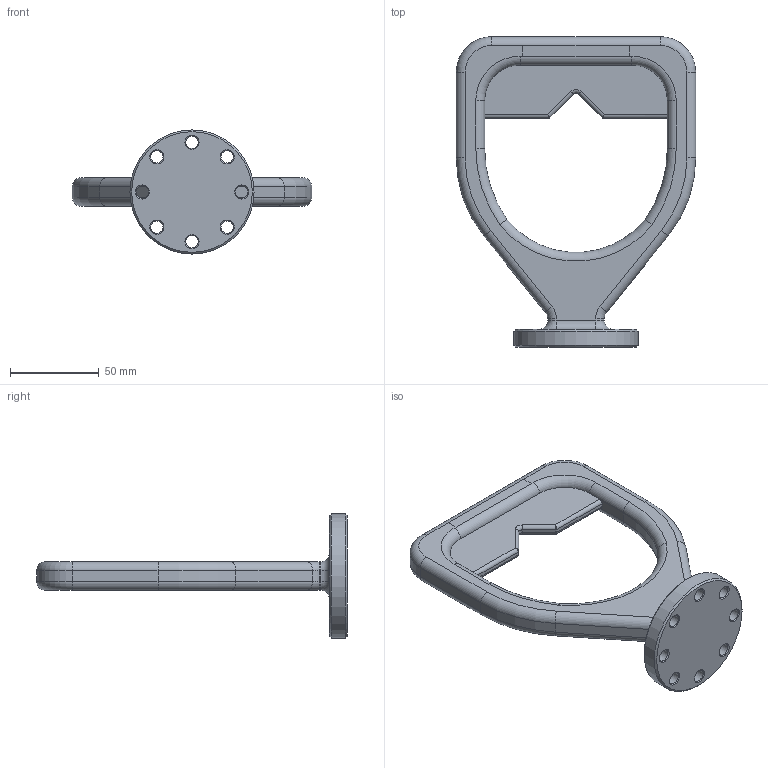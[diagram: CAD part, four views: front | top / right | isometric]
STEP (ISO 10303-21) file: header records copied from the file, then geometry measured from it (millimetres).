
FILE_DESCRIPTION(/* description */ ('ROV - D-HANDLE - 316L, CASTED - 5232-003'),/* implementation_level */ '2;1');
FILE_NAME(/* name */ 'IKM-6006699.stp',/* time_stamp */ '2025-01-15T09:24:56+01:00',/* author */ ('KateB'),/* organization */ ('IKM Subsea AS'),/* preprocessor_version */ 'ST-DEVELOPER v19.2',/* originating_system */ 'Autodesk Inventor 2023',/* authorisation */ '');
FILE_SCHEMA (('AUTOMOTIVE_DESIGN { 1 0 10303 214 3 1 1 }'));
Length unit declared in the file: millimetre
Products named in the file (1): IKM-6006699
Bounding box: 135 x 175 x 70 mm (x, y, z)
Volume: 176645.9 mm3; surface area: 41551.6 mm2
Topology: 1 solids, 1 shells, 124 faces, 303 edges, 176 vertices
Faces by surface type: cylinder 53, torus 28, plane 21, cone 18, bspline 4
Full cylindrical faces by diameter (mm): 7 x8, 70 x1
Entity records: 3904 total; most frequent: CARTESIAN_POINT 829, DIRECTION 701, ORIENTED_EDGE 598, EDGE_CURVE 299, AXIS2_PLACEMENT_3D 285, VERTEX_POINT 176, CIRCLE 156, EDGE_LOOP 141
